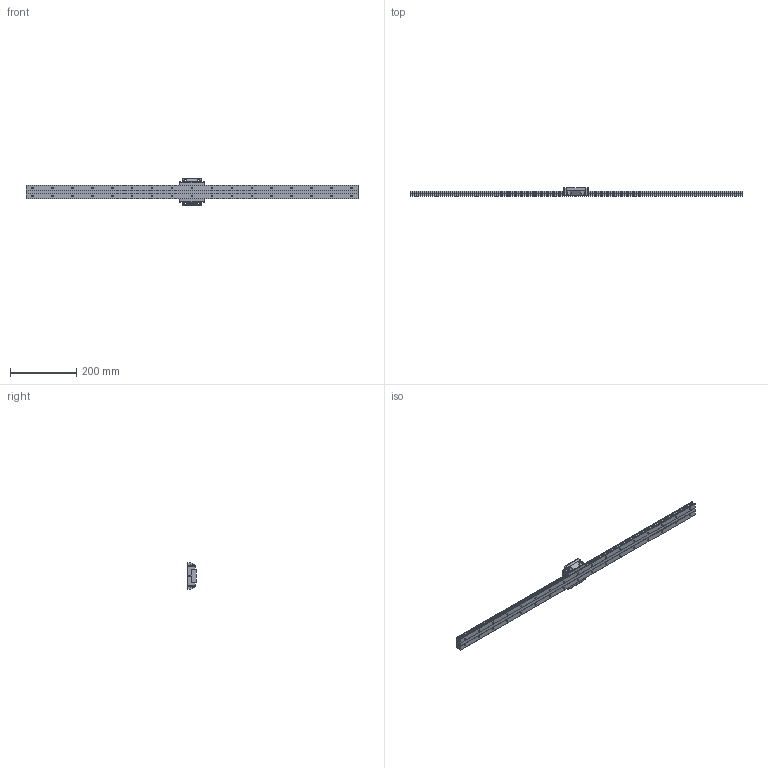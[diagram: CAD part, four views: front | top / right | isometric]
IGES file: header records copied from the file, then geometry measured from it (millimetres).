
Start section: Data from XPlus IGES,  Spatial Corp. Copyright (c) 1999-2004
Global section: file name: SHW27CA1UU1000200463.6000.igs; native system:  By Spatial Corp.; preprocessor: XPlus ACIS/IGES 3.0; author: Noname; organization: Noname; date: 20161110.134401; units: millimetre
Bounding box: 1000 x 27 x 80 mm (x, y, z)
Surface area: 146281.1 mm2 (no closed solid volume)
Topology: 0 solids, 0 shells, 364 faces, 1872 edges, 1868 vertices
Faces by surface type: revolution 212, extrusion 152
